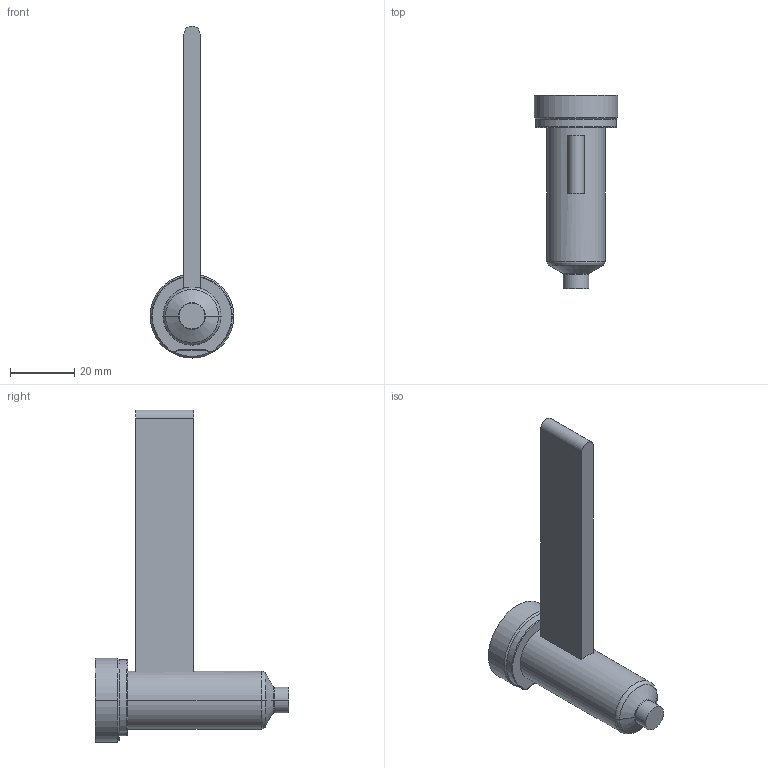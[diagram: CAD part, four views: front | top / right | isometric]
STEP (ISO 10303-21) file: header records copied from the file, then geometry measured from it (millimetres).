
FILE_DESCRIPTION((''),'2;1');
FILE_NAME('EO04_PG-FB_WR_050_COT','2024-02-19T11:22:38',('sundharh'),(''),'CREO PARAMETRIC BY PTC INC, 2023154','CREO PARAMETRIC BY PTC INC, 2023154','');
FILE_SCHEMA(('CONFIG_CONTROL_DESIGN'));
Length unit declared in the file: millimetre
Products named in the file (1): EO04_PG-FB_WR_050_COT
Bounding box: 26 x 60 x 103 mm (x, y, z)
Volume: 23837.4 mm3; surface area: 8073.3 mm2
Topology: 1 solids, 1 shells, 31 faces, 67 edges, 40 vertices
Faces by surface type: cylinder 11, plane 9, torus 7, cone 4
Entity records: 961 total; most frequent: CARTESIAN_POINT 228, DIRECTION 159, ORIENTED_EDGE 134, AXIS2_PLACEMENT_3D 67, EDGE_CURVE 67, VERTEX_POINT 40, CIRCLE 36, EDGE_LOOP 33
